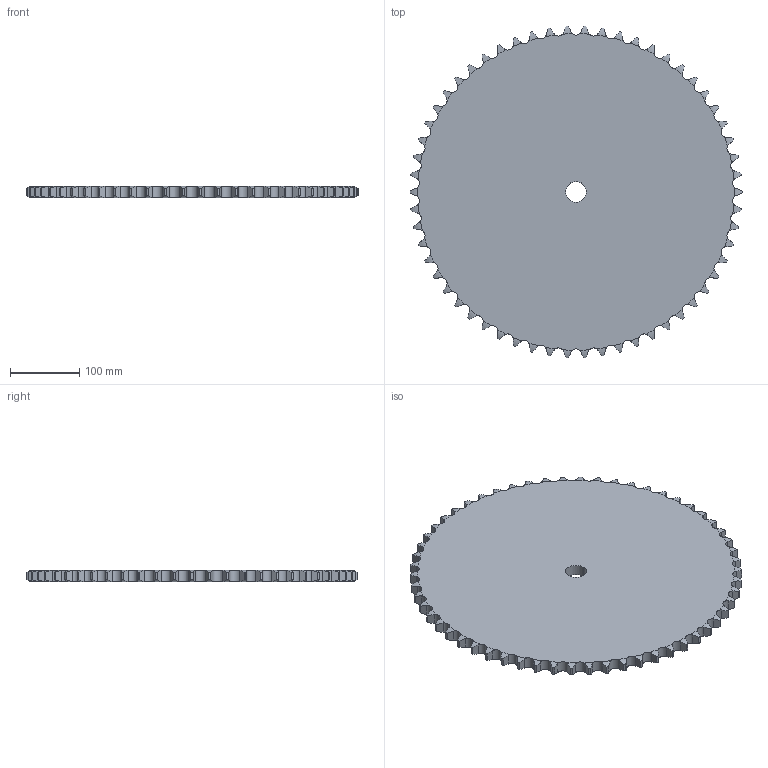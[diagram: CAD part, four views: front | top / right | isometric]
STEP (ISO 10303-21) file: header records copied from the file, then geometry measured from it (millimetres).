
FILE_DESCRIPTION((''),'2;1');
FILE_NAME('500-501-0058_PRT','2021-02-12T',('Brieden'),('Brieden'),'PRO/ENGINEER BY PARAMETRIC TECHNOLOGY CORPORATION, 2010160','PRO/ENGINEER BY PARAMETRIC TECHNOLOGY CORPORATION, 2010160','');
FILE_SCHEMA(('AUTOMOTIVE_DESIGN { 1 0 10303 214 1 1 1 1 }'));
Length unit declared in the file: millimetre
Products named in the file (1): 500-501-0058_PRT
Bounding box: 479.38 x 478.83 x 16.2 mm (x, y, z)
Volume: 2713186.6 mm3; surface area: 371475 mm2
Topology: 1 solids, 1 shells, 352 faces, 1050 edges, 700 vertices
Faces by surface type: cylinder 234, torus 116, plane 2
Entity records: 17728 total; most frequent: CARTESIAN_POINT 5611, ORIENTED_EDGE 2100, DIRECTION 1642, PRESENTATION_STYLE_ASSIGNMENT 1051, STYLED_ITEM 1051, CURVE_STYLE 1050, EDGE_CURVE 1050, AXIS2_PLACEMENT_3D 704
